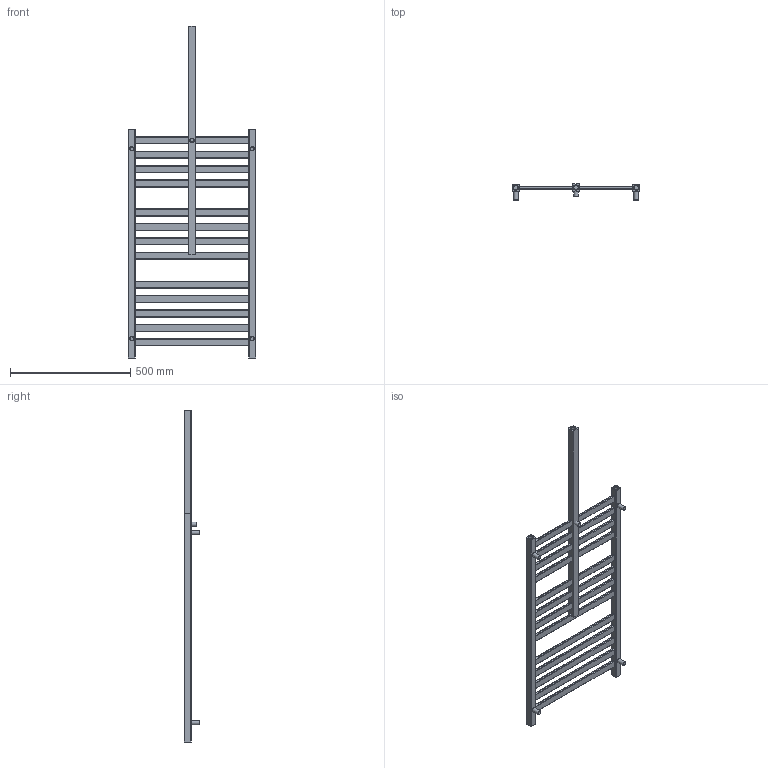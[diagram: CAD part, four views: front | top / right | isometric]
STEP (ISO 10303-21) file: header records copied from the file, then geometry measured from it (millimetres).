
FILE_DESCRIPTION( ( 'Unknown' ), '1' );
FILE_NAME( 'D:/RYSUNKI/RYSUNKI SOLID/SEJWAL/NOWE/2021/HAITI/HAITI.stp', 'Unknown', ( 'Unknown' ), ( 'Unknown' ), 'XStep 1.0', 'Unknown', ' ' );
FILE_SCHEMA( ( 'automotive_design' ) );
Length unit declared in the file: millimetre
Products named in the file (4): Assem1; 10x30x470; 30x30x950; MOCOWANIE
Bounding box: 530 x 65 x 1380 mm (x, y, z)
Volume: 4458849.6 mm3; surface area: 881915.5 mm2
Topology: 22 solids, 22 shells, 208 faces, 479 edges, 321 vertices
Faces by surface type: plane 118, cylinder 84, torus 6
Full cylindrical faces by diameter (mm): 15 x5, 18 x11
Entity records: 989 total; most frequent: DIRECTION 184, CARTESIAN_POINT 150, ORIENTED_EDGE 116, AXIS2_PLACEMENT_3D 76, EDGE_CURVE 58, VERTEX_POINT 42, EDGE_LOOP 40, FACE_OUTER_BOUND 36
